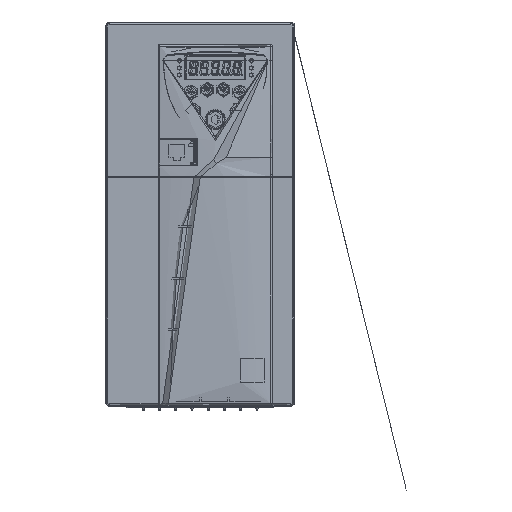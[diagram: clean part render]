
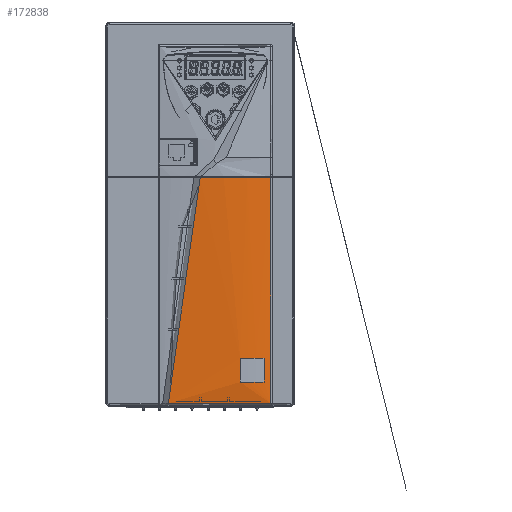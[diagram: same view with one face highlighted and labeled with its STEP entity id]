
A CAD part, top view. The second image highlights one B-rep face of the part: STEP entity #172838.
In plain terms, the highlighted cylindrical face has radius 220.5 mm (diameter 441 mm), a partial arc.
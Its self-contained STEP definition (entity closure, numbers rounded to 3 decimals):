
#234 = VECTOR ( 'NONE', #344798, 1000. ) ;
#2634 = CARTESIAN_POINT ( 'NONE',  ( -19.9, 161.481, 118.34 ) ) ;
#7896 = LINE ( 'NONE', #221246, #97679 ) ;
#11500 = DIRECTION ( 'NONE',  ( 1., 0., 0. ) ) ;
#14939 = FACE_OUTER_BOUND ( 'NONE', #41948, .T. ) ;
#18124 = CARTESIAN_POINT ( 'NONE',  ( -18.149, 161.71, 76.343 ) ) ;
#21602 = CARTESIAN_POINT ( 'NONE',  ( -5.927, 162.91, -12.494 ) ) ;
#23312 = CARTESIAN_POINT ( 'NONE',  ( -13.064, 162.293, 16.568 ) ) ;
#23498 = ORIENTED_EDGE ( 'NONE', *, *, #245177, .T. ) ;
#25037 = CARTESIAN_POINT ( 'NONE',  ( -1.861, 163.165, -20.52 ) ) ;
#30616 = CARTESIAN_POINT ( 'NONE',  ( -19.899, 161.481, 118.329 ) ) ;
#30860 = ORIENTED_EDGE ( 'NONE', *, *, #122230, .T. ) ;
#32428 = DIRECTION ( 'NONE',  ( 0., 0., 1. ) ) ;
#32664 = ORIENTED_EDGE ( 'NONE', *, *, #197548, .T. ) ;
#36079 = DIRECTION ( 'NONE',  ( 0., 0., 1. ) ) ;
#40722 = ORIENTED_EDGE ( 'NONE', *, *, #79649, .T. ) ;
#41948 = EDGE_LOOP ( 'NONE', ( #248037, #30860, #56717, #116979, #99869 ) ) ;
#44391 = CARTESIAN_POINT ( 'NONE',  ( -7.525, 162.792, -8.287 ) ) ;
#46143 = CARTESIAN_POINT ( 'NONE',  ( -17.113, 161.838, 58.366 ) ) ;
#46643 = CARTESIAN_POINT ( 'NONE',  ( 1.427, 163.562, 118.278 ) ) ;
#47868 = CARTESIAN_POINT ( 'NONE',  ( -14.238, 162.169, 25.486 ) ) ;
#56717 = ORIENTED_EDGE ( 'NONE', *, *, #66094, .F. ) ;
#58911 = EDGE_CURVE ( 'NONE', #295524, #285175, #148166, .T. ) ;
#66094 = EDGE_CURVE ( 'NONE', #230689, #315243, #328026, .T. ) ;
#79649 = EDGE_CURVE ( 'NONE', #194930, #138647, #127120, .T. ) ;
#80614 = EDGE_CURVE ( 'NONE', #230689, #295524, #148914, .T. ) ;
#84490 = DIRECTION ( 'NONE',  ( 0., 0., -1. ) ) ;
#94877 = CARTESIAN_POINT ( 'NONE',  ( 25., 162.904, 90. ) ) ;
#97679 = VECTOR ( 'NONE', #32428, 1000. ) ;
#98582 = CARTESIAN_POINT ( 'NONE',  ( -5.331, 162.951, -13.876 ) ) ;
#99869 = ORIENTED_EDGE ( 'NONE', *, *, #58911, .T. ) ;
#100291 = CARTESIAN_POINT ( 'NONE',  ( -7.029, 162.83, -9.701 ) ) ;
#102041 = CARTESIAN_POINT ( 'NONE',  ( -9.668, 162.616, -1.105 ) ) ;
#103549 = CARTESIAN_POINT ( 'NONE',  ( 40., 161.33, 105. ) ) ;
#105465 = CARTESIAN_POINT ( 'NONE',  ( -19.484, 161.537, 106.322 ) ) ;
#111056 = VERTEX_POINT ( 'NONE', #293387 ) ;
#114819 = EDGE_CURVE ( 'NONE', #285175, #111056, #264652, .T. ) ;
#116979 = ORIENTED_EDGE ( 'NONE', *, *, #80614, .T. ) ;
#118081 = VECTOR ( 'NONE', #127078, 1000. ) ;
#120890 = EDGE_LOOP ( 'NONE', ( #23498, #40722, #32664, #295183 ) ) ;
#122230 = EDGE_CURVE ( 'NONE', #111056, #315243, #274537, .T. ) ;
#127078 = DIRECTION ( 'NONE',  ( 0., 0., -1. ) ) ;
#127120 = CIRCLE ( 'NONE', #222038, 220.5 ) ;
#128236 = AXIS2_PLACEMENT_3D ( 'NONE', #252294, #84490, #191168 ) ;
#137204 = CARTESIAN_POINT ( 'NONE',  ( 9.5, -57.05, -22.9 ) ) ;
#138647 = VERTEX_POINT ( 'NONE', #214366 ) ;
#141190 = DIRECTION ( 'NONE',  ( 0., 0., 1. ) ) ;
#146396 = CARTESIAN_POINT ( 'NONE',  ( -9.29, 162.908, 118.301 ) ) ;
#148166 = LINE ( 'NONE', #204068, #118081 ) ;
#148914 = B_SPLINE_CURVE_WITH_KNOTS ( 'NONE', 3,
 ( #279354, #146396, #46643, #226847, #153294, #259978 ),
 .UNSPECIFIED., .F., .F.,
 ( 4, 2, 4 ),
 ( 0., 0.5, 1. ),
 .UNSPECIFIED. ) ;
#150480 = CARTESIAN_POINT ( 'NONE',  ( -19.899, 161.481, 118.35 ) ) ;
#151044 = CARTESIAN_POINT ( 'NONE',  ( -8.9, 162.683, -4.008 ) ) ;
#153294 = CARTESIAN_POINT ( 'NONE',  ( 33.553, 162.396, 118.318 ) ) ;
#157965 = CARTESIAN_POINT ( 'NONE',  ( -5.018, 162.972, -14.562 ) ) ;
#165996 = CARTESIAN_POINT ( 'NONE',  ( 40., 161.33, 90. ) ) ;
#169277 = LINE ( 'NONE', #185570, #234 ) ;
#172838 = ADVANCED_FACE ( 'NONE', ( #14939, #277430 ), #202034, .T. ) ;
#177309 = CARTESIAN_POINT ( 'NONE',  ( -3.389, 163.077, -17.945 ) ) ;
#179026 = CARTESIAN_POINT ( 'NONE',  ( -15.199, 162.062, 34.437 ) ) ;
#182490 = CARTESIAN_POINT ( 'NONE',  ( -19.015, 161.599, 94.327 ) ) ;
#184523 = AXIS2_PLACEMENT_3D ( 'NONE', #230005, #36079, #11500 ) ;
#185570 = CARTESIAN_POINT ( 'NONE',  ( 25., 162.904, -138.35 ) ) ;
#191168 = DIRECTION ( 'NONE',  ( 1., 0., 0. ) ) ;
#194930 = VERTEX_POINT ( 'NONE', #103549 ) ;
#197548 = EDGE_CURVE ( 'NONE', #138647, #249745, #169277, .T. ) ;
#202034 = CYLINDRICAL_SURFACE ( 'NONE', #184523, 220.5 ) ;
#204068 = CARTESIAN_POINT ( 'NONE',  ( 44.137, 160.712, -138.35 ) ) ;
#206974 = CARTESIAN_POINT ( 'NONE',  ( -19.899, 161.481, 118.319 ) ) ;
#208718 = CARTESIAN_POINT ( 'NONE',  ( -13.876, 162.208, 22.509 ) ) ;
#214366 = CARTESIAN_POINT ( 'NONE',  ( 25., 162.904, 105. ) ) ;
#219951 = AXIS2_PLACEMENT_3D ( 'NONE', #137204, #271919, #245653 ) ;
#220935 = EDGE_CURVE ( 'NONE', #249745, #229672, #251146, .T. ) ;
#221246 = CARTESIAN_POINT ( 'NONE',  ( 40., 161.33, -138.35 ) ) ;
#222038 = AXIS2_PLACEMENT_3D ( 'NONE', #223350, #141190, #298681 ) ;
#223350 = CARTESIAN_POINT ( 'NONE',  ( 9.5, -57.05, 105. ) ) ;
#226847 = CARTESIAN_POINT ( 'NONE',  ( 22.848, 163.306, 118.287 ) ) ;
#229672 = VERTEX_POINT ( 'NONE', #165996 ) ;
#230005 = CARTESIAN_POINT ( 'NONE',  ( 9.5, -57.05, -138.35 ) ) ;
#230689 = VERTEX_POINT ( 'NONE', #150480 ) ;
#238430 = CARTESIAN_POINT ( 'NONE',  ( -11.59, 162.44, 7.697 ) ) ;
#245177 = EDGE_CURVE ( 'NONE', #229672, #194930, #7896, .T. ) ;
#245653 = DIRECTION ( 'NONE',  ( 1., 0., 0. ) ) ;
#248037 = ORIENTED_EDGE ( 'NONE', *, *, #114819, .T. ) ;
#249745 = VERTEX_POINT ( 'NONE', #94877 ) ;
#251146 = CIRCLE ( 'NONE', #128236, 220.5 ) ;
#252294 = CARTESIAN_POINT ( 'NONE',  ( 9.5, -57.05, 90. ) ) ;
#259492 = CARTESIAN_POINT ( 'NONE',  ( -16.005, 161.97, 43.404 ) ) ;
#259978 = CARTESIAN_POINT ( 'NONE',  ( 44.137, 160.712, 118.377 ) ) ;
#262943 = CARTESIAN_POINT ( 'NONE',  ( -11.014, 162.495, 4.753 ) ) ;
#264652 = CIRCLE ( 'NONE', #219951, 220.5 ) ;
#264670 = CARTESIAN_POINT ( 'NONE',  ( -12.615, 162.339, 13.604 ) ) ;
#271919 = DIRECTION ( 'NONE',  ( 0., 0., 1. ) ) ;
#274537 = B_SPLINE_CURVE_WITH_KNOTS ( 'NONE', 3,
 ( #290913, #25037, #177309, #157965, #98582, #21602, #318849, #100291, #44391, #151044, #102041, #262943, #238430, #264670, #23312, #208718, #47868, #311952, #179026, #285742, #259492, #315417, #46143, #284020, #18124, #182490, #105465, #206974 ),
 .UNSPECIFIED., .F., .F.,
 ( 4, 2, 2, 2, 2, 2, 2, 2, 2, 2, 2, 2, 2, 4 ),
 ( 0., 0.009, 0.011, 0.013, 0.018, 0.027, 0.036, 0.045, 0.054, 0.063, 0.072, 0.09, 0.108, 0.144 ),
 .UNSPECIFIED. ) ;
#277430 = FACE_BOUND ( 'NONE', #120890, .T. ) ;
#279354 = CARTESIAN_POINT ( 'NONE',  ( -19.899, 161.481, 118.35 ) ) ;
#280093 = CARTESIAN_POINT ( 'NONE',  ( -19.899, 161.481, 118.319 ) ) ;
#284020 = CARTESIAN_POINT ( 'NONE',  ( -17.832, 161.75, 70.35 ) ) ;
#285175 = VERTEX_POINT ( 'NONE', #323991 ) ;
#285742 = CARTESIAN_POINT ( 'NONE',  ( -15.752, 161.999, 40.414 ) ) ;
#290913 = CARTESIAN_POINT ( 'NONE',  ( -0.002, 163.245, -22.9 ) ) ;
#293387 = CARTESIAN_POINT ( 'NONE',  ( -0.002, 163.245, -22.9 ) ) ;
#295183 = ORIENTED_EDGE ( 'NONE', *, *, #220935, .T. ) ;
#295524 = VERTEX_POINT ( 'NONE', #334651 ) ;
#296476 = CARTESIAN_POINT ( 'NONE',  ( -19.899, 161.481, 118.319 ) ) ;
#298681 = DIRECTION ( 'NONE',  ( 1., 0., 0. ) ) ;
#311952 = CARTESIAN_POINT ( 'NONE',  ( -14.899, 162.096, 31.45 ) ) ;
#315243 = VERTEX_POINT ( 'NONE', #280093 ) ;
#315417 = CARTESIAN_POINT ( 'NONE',  ( -16.711, 161.887, 52.378 ) ) ;
#318849 = CARTESIAN_POINT ( 'NONE',  ( -6.212, 162.89, -11.799 ) ) ;
#322749 = CARTESIAN_POINT ( 'NONE',  ( -19.899, 161.481, 118.35 ) ) ;
#323991 = CARTESIAN_POINT ( 'NONE',  ( 44.137, 160.712, -22.9 ) ) ;
#328026 = B_SPLINE_CURVE_WITH_KNOTS ( 'NONE', 3,
 ( #322749, #2634, #30616, #296476 ),
 .UNSPECIFIED., .F., .F.,
 ( 4, 4 ),
 ( 0., 0. ),
 .UNSPECIFIED. ) ;
#334651 = CARTESIAN_POINT ( 'NONE',  ( 44.137, 160.712, 118.377 ) ) ;
#344798 = DIRECTION ( 'NONE',  ( 0., 0., -1. ) ) ;
